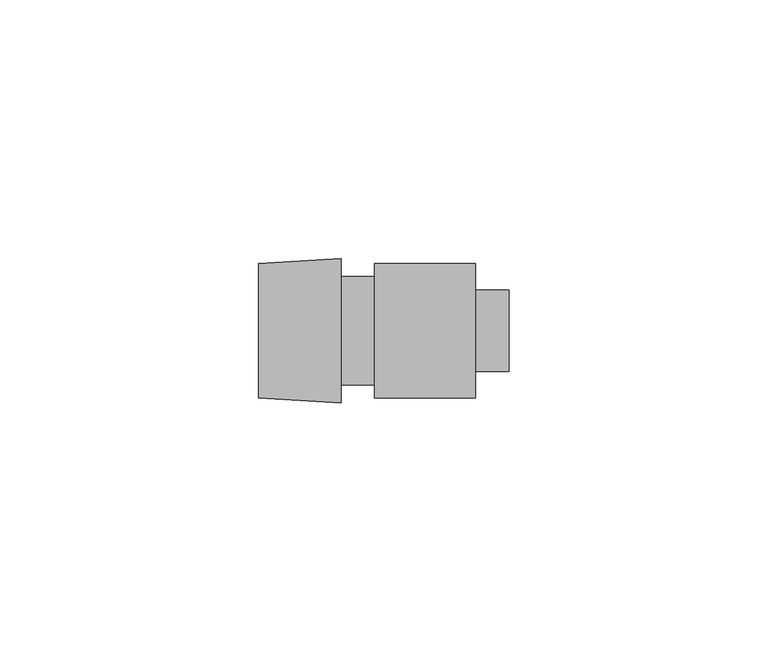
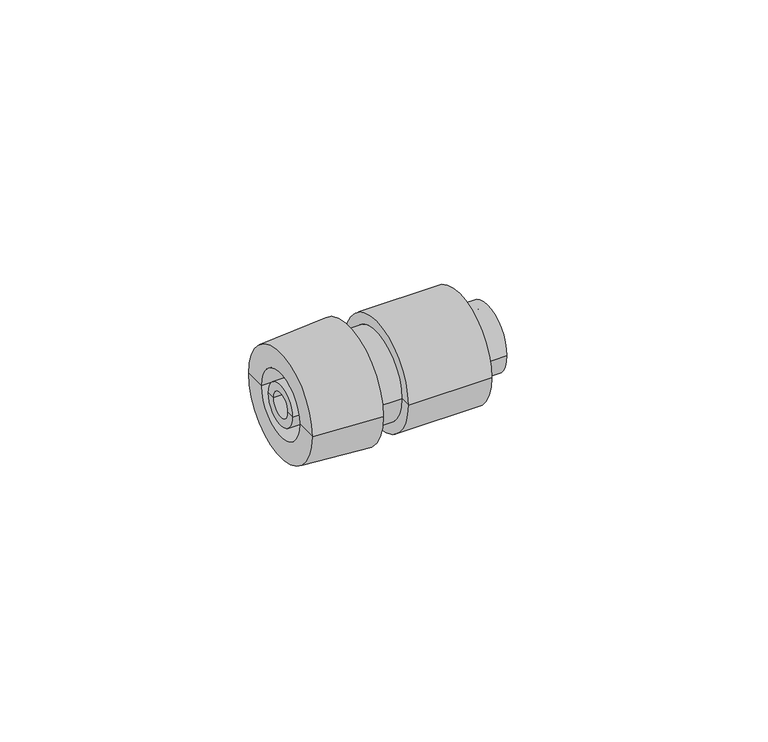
"""IFC4 building model written with IfcOpenShell, lengths in millimetres: cable carrier fitting geometry, КНС_ПереходникАрмированнаяТрубаКоробка_IP65_DKC : Коробка."""

from ifc_helpers import new_model, si_unit, frame, origin, place, context, project, spatial, polyline, circle_curve, source, transform, mapped, element, save
from ifc_brep_helpers import plane_surface, cylinder_surface, revolved_surface, advanced_brep


def cable_carrier_fitting_9543473c(model_context):
    return source(origin(), model_context, "Body", "AdvancedBrep", [
        advanced_brep(
        [(32.5, -5.8353846, 0.0), (32.5, 5.8353846, 0.0), (0.0, 5.8353846, 0.0), (0.0, -5.8353846, 0.0), (32.5, -7.9, 0.0), (32.5, 7.9, 0.0), (26.0, -7.9, 0.0), (26.0, 7.9, 0.0), (26.0, -13.0, 0.0), (26.0, 13.0, 0.0), (6.5, -13.0, 0.0), (6.5, 13.0, 0.0), (6.5, -10.45, 0.0), (6.5, 10.45, 0.0), (0.0, -10.45, 0.0), (0.0, 10.45, 0.0)],
        [
            (0, 1, circle_curve(frame((32.5, 0.0, 0.0), z_axis=(1.0, 0.0, 0.0), x_axis=(0.0, 1.0, 0.0)), 5.8353846)),
            (1, 2),
            (2, 3, circle_curve(frame((0.0, 0.0, 0.0), z_axis=(-1.0, 0.0, 0.0), x_axis=(0.0, 1.0, 0.0)), 5.8353846)),
            (3, 0),
            (1, 0, circle_curve(frame((32.5, 0.0, 0.0), z_axis=(1.0, 0.0, 0.0), x_axis=(0.0, 1.0, 0.0)), 5.8353846)),
            (3, 2, circle_curve(frame((0.0, 0.0, 0.0), z_axis=(-1.0, 0.0, 0.0), x_axis=(0.0, 1.0, 0.0)), 5.8353846)),
            (4, 5, circle_curve(frame((32.5, 0.0, 0.0), z_axis=(1.0, 0.0, 0.0), x_axis=(0.0, 1.0, 0.0)), 7.9)),
            (5, 1),
            (0, 4),
            (5, 4, circle_curve(frame((32.5, 0.0, 0.0), z_axis=(1.0, 0.0, 0.0), x_axis=(0.0, 1.0, 0.0)), 7.9)),
            (6, 7, circle_curve(frame((26.0, 0.0, 0.0), z_axis=(1.0, 0.0, 0.0), x_axis=(0.0, 1.0, 0.0)), 7.9)),
            (7, 5),
            (4, 6),
            (7, 6, circle_curve(frame((26.0, 0.0, 0.0), z_axis=(1.0, 0.0, 0.0), x_axis=(0.0, 1.0, 0.0)), 7.9)),
            (8, 9, circle_curve(frame((26.0, 0.0, 0.0), z_axis=(1.0, 0.0, 0.0), x_axis=(0.0, 1.0, 0.0)), 13.0)),
            (9, 7),
            (6, 8),
            (9, 8, circle_curve(frame((26.0, 0.0, 0.0), z_axis=(1.0, 0.0, 0.0), x_axis=(0.0, 1.0, 0.0)), 13.0)),
            (10, 11, circle_curve(frame((6.5, 0.0, 0.0), z_axis=(1.0, 0.0, 0.0), x_axis=(0.0, 1.0, 0.0)), 13.0)),
            (11, 9),
            (8, 10),
            (11, 10, circle_curve(frame((6.5, 0.0, 0.0), z_axis=(1.0, 0.0, 0.0), x_axis=(0.0, 1.0, 0.0)), 13.0)),
            (12, 13, circle_curve(frame((6.5, 0.0, 0.0), z_axis=(1.0, 0.0, 0.0), x_axis=(0.0, 1.0, 0.0)), 10.45)),
            (13, 11),
            (10, 12),
            (13, 12, circle_curve(frame((6.5, 0.0, 0.0), z_axis=(1.0, 0.0, 0.0), x_axis=(0.0, 1.0, 0.0)), 10.45)),
            (14, 15, circle_curve(frame((0.0, 0.0, 0.0), z_axis=(1.0, 0.0, 0.0), x_axis=(0.0, 1.0, 0.0)), 10.45)),
            (15, 13),
            (12, 14),
            (15, 14, circle_curve(frame((0.0, 0.0, 0.0), z_axis=(1.0, 0.0, 0.0), x_axis=(0.0, 1.0, 0.0)), 10.45)),
            (2, 15),
            (14, 3),
        ],
        [
            revolved_surface(polyline([(0.0, 5.8353846, 0.0), (32.5, 5.8353846, 0.0)]), (1521.0, 0.0, 0.0), (-1.0, 0.0, 0.0)),
            plane_surface(frame((32.5, 0.0, 0.0), z_axis=(1.0, 0.0, 0.0), x_axis=(0.0, 1.0, 0.0))),
            cylinder_surface(frame((1521.0, 0.0, 0.0), z_axis=(-1.0, 0.0, 0.0), x_axis=(0.0, 1.0, 0.0)), 7.9),
            plane_surface(frame((26.0, 0.0, 0.0), z_axis=(1.0, 0.0, 0.0), x_axis=(0.0, 1.0, 0.0))),
            cylinder_surface(frame((1521.0, 0.0, 0.0), z_axis=(-1.0, 0.0, 0.0), x_axis=(0.0, 1.0, 0.0)), 13.0),
            plane_surface(frame((6.5, 0.0, 0.0), z_axis=(-1.0, 0.0, 0.0), x_axis=(0.0, 1.0, 0.0))),
            cylinder_surface(frame((1521.0, 0.0, 0.0), z_axis=(-1.0, 0.0, 0.0), x_axis=(0.0, 1.0, 0.0)), 10.45),
            plane_surface(frame((0.0, 0.0, 0.0), z_axis=(-1.0, 0.0, 0.0), x_axis=(0.0, 1.0, 0.0))),
        ],
        [
            (0, [[1, 2, 3, 4]]),
            (0, [[5, -4, 6, -2]]),
            (1, [[7, 8, -1, 9]]),
            (1, [[10, -9, -5, -8]]),
            (2, [[11, 12, -7, 13]]),
            (2, [[14, -13, -10, -12]]),
            (3, [[15, 16, -11, 17]]),
            (3, [[18, -17, -14, -16]]),
            (4, [[19, 20, -15, 21]]),
            (4, [[22, -21, -18, -20]]),
            (5, [[23, 24, -19, 25]]),
            (5, [[26, -25, -22, -24]]),
            (6, [[27, 28, -23, 29]]),
            (6, [[30, -29, -26, -28]]),
            (7, [[-3, 31, -27, 32]]),
            (7, [[-6, -32, -30, -31]]),
        ],
    ),
        advanced_brep(
        [(0.0, -14.0, 0.0), (0.0, 14.0, 0.0), (0.0, 7.9, 0.0), (0.0, -7.9, 0.0), (-16.0, -13.0, 0.0), (-16.0, 13.0, 0.0), (-16.0, -7.9, 0.0), (-16.0, 7.9, 0.0)],
        [
            (0, 1, circle_curve(frame((0.0, 0.0, 0.0), z_axis=(1.0, 0.0, 0.0), x_axis=(0.0, 1.0, 0.0)), 14.0)),
            (1, 2),
            (2, 3, circle_curve(frame((0.0, 0.0, 0.0), z_axis=(-1.0, 0.0, 0.0), x_axis=(0.0, 1.0, 0.0)), 7.9)),
            (3, 0),
            (1, 0, circle_curve(frame((0.0, 0.0, 0.0), z_axis=(1.0, 0.0, 0.0), x_axis=(0.0, 1.0, 0.0)), 14.0)),
            (3, 2, circle_curve(frame((0.0, 0.0, 0.0), z_axis=(-1.0, 0.0, 0.0), x_axis=(0.0, 1.0, 0.0)), 7.9)),
            (4, 5, circle_curve(frame((-16.0, 0.0, 0.0), z_axis=(1.0, 0.0, 0.0), x_axis=(0.0, 1.0, 0.0)), 13.0)),
            (5, 1),
            (0, 4),
            (5, 4, circle_curve(frame((-16.0, 0.0, 0.0), z_axis=(1.0, 0.0, 0.0), x_axis=(0.0, 1.0, 0.0)), 13.0)),
            (6, 7, circle_curve(frame((-16.0, 0.0, 0.0), z_axis=(1.0, 0.0, 0.0), x_axis=(0.0, 1.0, 0.0)), 7.9)),
            (7, 5),
            (4, 6),
            (7, 6, circle_curve(frame((-16.0, 0.0, 0.0), z_axis=(1.0, 0.0, 0.0), x_axis=(0.0, 1.0, 0.0)), 7.9)),
            (2, 7),
            (6, 3),
        ],
        [
            plane_surface(frame((0.0, 0.0, 0.0), z_axis=(1.0, 0.0, 0.0), x_axis=(0.0, 1.0, 0.0))),
            revolved_surface(polyline([(0.0, 14.0, 0.0), (-16.0, 13.0, 0.0)]), (1521.0, 0.0, 0.0), (-1.0, 0.0, 0.0)),
            plane_surface(frame((-16.0, 0.0, 0.0), z_axis=(-1.0, 0.0, 0.0), x_axis=(0.0, 1.0, 0.0))),
            revolved_surface(polyline([(-16.0, 7.9, 0.0), (0.0, 7.9, 0.0)]), (1521.0, 0.0, 0.0), (-1.0, 0.0, 0.0)),
        ],
        [
            (0, [[1, 2, 3, 4]]),
            (0, [[5, -4, 6, -2]]),
            (1, [[7, 8, -1, 9]]),
            (1, [[10, -9, -5, -8]]),
            (2, [[11, 12, -7, 13]]),
            (2, [[14, -13, -10, -12]]),
            (3, [[-3, 15, -11, 16]]),
            (3, [[-6, -16, -14, -15]]),
        ],
    ),
        advanced_brep(
        [(-16.0, -5.0, 0.0), (-16.0, 5.0, 0.0), (0.0, 5.0, 0.0), (0.0, -5.0, 0.0), (-16.0, -3.0, 0.0), (-16.0, 3.0, 0.0), (0.0, -3.0, 0.0), (0.0, 3.0, 0.0)],
        [
            (0, 1, circle_curve(frame((-16.0, 0.0, 0.0), z_axis=(1.0, 0.0, 0.0), x_axis=(0.0, 1.0, 0.0)), 5.0)),
            (1, 2),
            (2, 3, circle_curve(frame((0.0, 0.0, 0.0), z_axis=(-1.0, 0.0, 0.0), x_axis=(0.0, 1.0, 0.0)), 5.0)),
            (3, 0),
            (1, 0, circle_curve(frame((-16.0, 0.0, 0.0), z_axis=(1.0, 0.0, 0.0), x_axis=(0.0, 1.0, 0.0)), 5.0)),
            (3, 2, circle_curve(frame((0.0, 0.0, 0.0), z_axis=(-1.0, 0.0, 0.0), x_axis=(0.0, 1.0, 0.0)), 5.0)),
            (4, 5, circle_curve(frame((-16.0, 0.0, 0.0), z_axis=(1.0, 0.0, 0.0), x_axis=(0.0, 1.0, 0.0)), 3.0)),
            (5, 1),
            (0, 4),
            (5, 4, circle_curve(frame((-16.0, 0.0, 0.0), z_axis=(1.0, 0.0, 0.0), x_axis=(0.0, 1.0, 0.0)), 3.0)),
            (6, 7, circle_curve(frame((0.0, 0.0, 0.0), z_axis=(1.0, 0.0, 0.0), x_axis=(0.0, 1.0, 0.0)), 3.0)),
            (7, 5),
            (4, 6),
            (7, 6, circle_curve(frame((0.0, 0.0, 0.0), z_axis=(1.0, 0.0, 0.0), x_axis=(0.0, 1.0, 0.0)), 3.0)),
            (2, 7),
            (6, 3),
        ],
        [
            cylinder_surface(frame((1521.0, 0.0, 0.0), z_axis=(-1.0, 0.0, 0.0), x_axis=(0.0, 1.0, 0.0)), 5.0),
            plane_surface(frame((-16.0, 0.0, 0.0), z_axis=(-1.0, 0.0, 0.0), x_axis=(0.0, 1.0, 0.0))),
            revolved_surface(polyline([(-16.0, 3.0, 0.0), (0.0, 3.0, 0.0)]), (1521.0, 0.0, 0.0), (-1.0, 0.0, 0.0)),
            plane_surface(frame((0.0, 0.0, 0.0), z_axis=(1.0, 0.0, 0.0), x_axis=(0.0, 1.0, 0.0))),
        ],
        [
            (0, [[1, 2, 3, 4]]),
            (0, [[5, -4, 6, -2]]),
            (1, [[7, 8, -1, 9]]),
            (1, [[10, -9, -5, -8]]),
            (2, [[11, 12, -7, 13]]),
            (2, [[14, -13, -10, -12]]),
            (3, [[-3, 15, -11, 16]]),
            (3, [[-6, -16, -14, -15]]),
        ],
    ),
    ])


if __name__ == "__main__":
    model = new_model("IFC4")
    model_context = context("Model", 3, world=origin())
    ifc_project = project(units=[si_unit("LENGTHUNIT", "METRE", prefix="MILLI")], contexts=[model_context])
    site = spatial("IfcSite", under=ifc_project)
    building = spatial("IfcBuilding", under=site)
    placement = place(None, origin())
    cable_carrier_fitting_shape = cable_carrier_fitting_9543473c(model_context)
    element("IfcCableCarrierFitting", 1, ObjectType="КНС_ПереходникАрмированнаяТрубаКоробка_IP65_DKC : Коробка", at=placement, inside=building, context=model_context, shape_type="MappedRepresentation", body=[
        mapped(cable_carrier_fitting_shape, transform((0.0, 0.0, 0.0), x_axis=(1.0, 0.0, 0.0), y_axis=(0.0, 1.0, 0.0), z_axis=(0.0, 0.0, 1.0))),
    ])
    save(model, "model.ifc")
